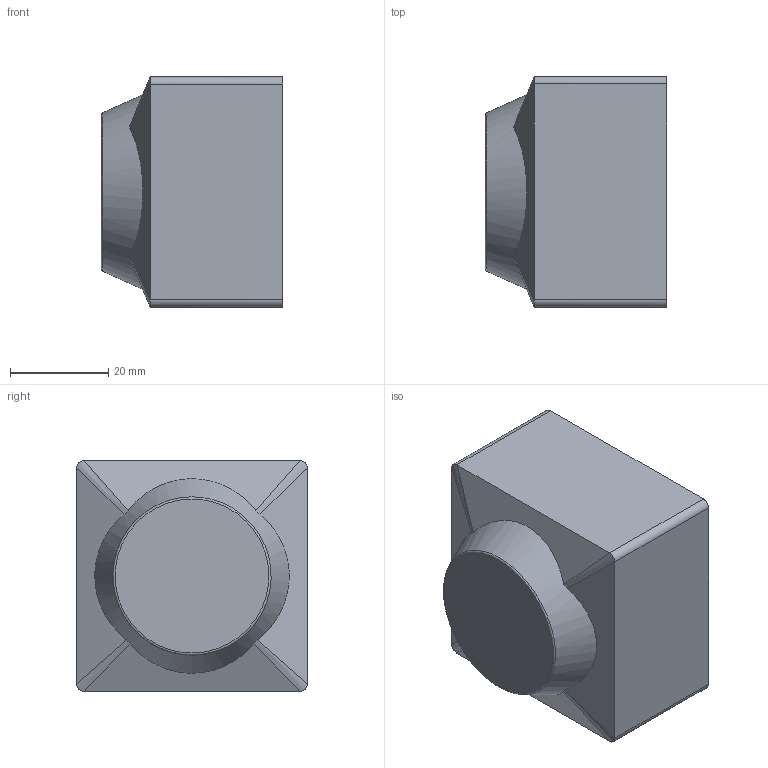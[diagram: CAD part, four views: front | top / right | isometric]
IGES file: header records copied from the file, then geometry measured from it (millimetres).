
Global section: file name: DR_PR14-4040; native system: Autodesk Inventor 2015; preprocessor: unknown; author: Administrator; date: 20221214.161454; units: millimetre
Bounding box: 37 x 47 x 47 mm (x, y, z)
Volume: 30241.3 mm3; surface area: 14247.6 mm2
Topology: 1 solids, 1 shells, 25 faces, 59 edges, 37 vertices
Faces by surface type: bspline 25
